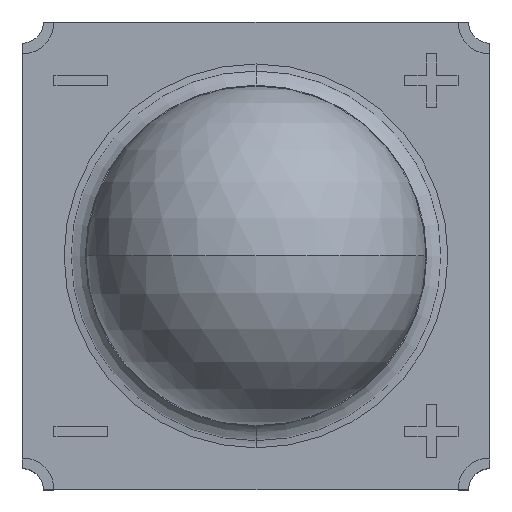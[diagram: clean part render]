
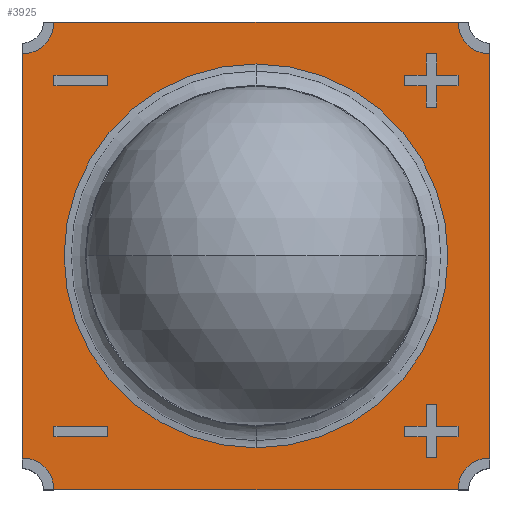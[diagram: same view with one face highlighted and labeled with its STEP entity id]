
A CAD part, top view. The second image highlights one B-rep face of the part: STEP entity #3925.
In plain terms, the highlighted planar face has unit normal (0, 0, 1).
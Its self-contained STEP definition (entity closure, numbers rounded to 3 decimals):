
#3 = EDGE_CURVE ( 'NONE', #1645, #1647, #4971, .T. ) ;
#4 = AXIS2_PLACEMENT_3D ( 'NONE', #1160, #1161, #1162 ) ;
#6 = AXIS2_PLACEMENT_3D ( 'NONE', #4683, #4684, #4685 ) ;
#39 = EDGE_CURVE ( 'NONE', #1631, #1646, #5032, .T. ) ;
#45 = AXIS2_PLACEMENT_3D ( 'NONE', #4656, #4657, #4658 ) ;
#50 = EDGE_CURVE ( 'NONE', #1647, #4988, #5043, .T. ) ;
#66 = AXIS2_PLACEMENT_3D ( 'NONE', #2377, #2378, #2379 ) ;
#92 = EDGE_CURVE ( 'NONE', #5655, #5714, #5069, .T. ) ;
#102 = EDGE_CURVE ( 'NONE', #5714, #5655, #5074, .T. ) ;
#103 = EDGE_CURVE ( 'NONE', #1636, #1638, #5078, .T. ) ;
#118 = EDGE_CURVE ( 'NONE', #1638, #1645, #5089, .T. ) ;
#123 = EDGE_CURVE ( 'NONE', #1646, #1642, #5092, .T. ) ;
#151 = AXIS2_PLACEMENT_3D ( 'NONE', #4664, #4665, #4666 ) ;
#153 = EDGE_CURVE ( 'NONE', #4988, #1631, #5137, .T. ) ;
#167 = EDGE_CURVE ( 'NONE', #1642, #1636, #1798, .T. ) ;
#212 = AXIS2_PLACEMENT_3D ( 'NONE', #1173, #1174, #1175 ) ;
#991 = AXIS2_PLACEMENT_3D ( 'NONE', #3197, #3198, #3199 ) ;
#1160 = CARTESIAN_POINT ( 'NONE',  ( -2.2, 2.2, 1.05 ) ) ;
#1161 = DIRECTION ( 'NONE',  ( 0., 0., -1. ) ) ;
#1162 = DIRECTION ( 'NONE',  ( -1., 0., 0. ) ) ;
#1173 = CARTESIAN_POINT ( 'NONE',  ( 2.2, 2.2, 1.05 ) ) ;
#1174 = DIRECTION ( 'NONE',  ( 0., 0., -1. ) ) ;
#1175 = DIRECTION ( 'NONE',  ( -1., 0., 0. ) ) ;
#1631 = VERTEX_POINT ( 'NONE', #4504 ) ;
#1636 = VERTEX_POINT ( 'NONE', #4506 ) ;
#1638 = VERTEX_POINT ( 'NONE', #4507 ) ;
#1642 = VERTEX_POINT ( 'NONE', #4509 ) ;
#1645 = VERTEX_POINT ( 'NONE', #4512 ) ;
#1646 = VERTEX_POINT ( 'NONE', #4513 ) ;
#1647 = VERTEX_POINT ( 'NONE', #4514 ) ;
#1798 = CIRCLE ( 'NONE', #66, 0.3 ) ;
#2353 = CARTESIAN_POINT ( 'NONE',  ( -2.2, 2.2, 1.05 ) ) ;
#2361 = DIRECTION ( 'NONE',  ( -1., 0., 0. ) ) ;
#2377 = CARTESIAN_POINT ( 'NONE',  ( -2.2, -2.2, 1.05 ) ) ;
#2378 = DIRECTION ( 'NONE',  ( 0., 0., -1. ) ) ;
#2379 = DIRECTION ( 'NONE',  ( -1., 0., 0. ) ) ;
#3190 = PLANE ( 'NONE',  #991 ) ;
#3197 = CARTESIAN_POINT ( 'NONE',  ( -2.2, -2.2, 1.05 ) ) ;
#3198 = DIRECTION ( 'NONE',  ( 0., 0., 1. ) ) ;
#3199 = DIRECTION ( 'NONE',  ( 1., 0., 0. ) ) ;
#3325 = CARTESIAN_POINT ( 'NONE',  ( 1.9, 2.2, 1.05 ) ) ;
#3394 = CARTESIAN_POINT ( 'NONE',  ( -1.738, 0., 1.05 ) ) ;
#3453 = CARTESIAN_POINT ( 'NONE',  ( 1.738, 0., 1.05 ) ) ;
#3491 = FACE_BOUND ( 'NONE', #4111, .T. ) ;
#3495 = FACE_OUTER_BOUND ( 'NONE', #4123, .T. ) ;
#3925 = ADVANCED_FACE ( 'NONE', ( #3491, #3495 ), #3190, .T. ) ;
#3936 = CARTESIAN_POINT ( 'NONE',  ( 2.2, 2.2, 1.05 ) ) ;
#3937 = DIRECTION ( 'NONE',  ( 0., 1., 0. ) ) ;
#4111 = EDGE_LOOP ( 'NONE', ( #4854, #4855 ) ) ;
#4123 = EDGE_LOOP ( 'NONE', ( #4856, #4857, #4858, #4859, #4860, #4861, #4862, #4863 ) ) ;
#4504 = CARTESIAN_POINT ( 'NONE',  ( -1.9, 2.2, 1.05 ) ) ;
#4506 = CARTESIAN_POINT ( 'NONE',  ( -1.9, -2.2, 1.05 ) ) ;
#4507 = CARTESIAN_POINT ( 'NONE',  ( 1.9, -2.2, 1.05 ) ) ;
#4509 = CARTESIAN_POINT ( 'NONE',  ( -2.2, -1.9, 1.05 ) ) ;
#4512 = CARTESIAN_POINT ( 'NONE',  ( 2.2, -1.9, 1.05 ) ) ;
#4513 = CARTESIAN_POINT ( 'NONE',  ( -2.2, 1.9, 1.05 ) ) ;
#4514 = CARTESIAN_POINT ( 'NONE',  ( 2.2, 1.9, 1.05 ) ) ;
#4656 = CARTESIAN_POINT ( 'NONE',  ( 0., 0., 1.05 ) ) ;
#4657 = DIRECTION ( 'NONE',  ( 0., 0., -1. ) ) ;
#4658 = DIRECTION ( 'NONE',  ( -1., 0., 0. ) ) ;
#4659 = DIRECTION ( 'NONE',  ( 1., 0., 0. ) ) ;
#4661 = CARTESIAN_POINT ( 'NONE',  ( -2.2, -2.2, 1.05 ) ) ;
#4664 = CARTESIAN_POINT ( 'NONE',  ( 0., 0., 1.05 ) ) ;
#4665 = DIRECTION ( 'NONE',  ( 0., 0., -1. ) ) ;
#4666 = DIRECTION ( 'NONE',  ( -1., 0., 0. ) ) ;
#4681 = CARTESIAN_POINT ( 'NONE',  ( -2.2, 2.2, 1.05 ) ) ;
#4683 = CARTESIAN_POINT ( 'NONE',  ( 2.2, -2.2, 1.05 ) ) ;
#4684 = DIRECTION ( 'NONE',  ( 0., 0., -1. ) ) ;
#4685 = DIRECTION ( 'NONE',  ( -1., 0., 0. ) ) ;
#4690 = DIRECTION ( 'NONE',  ( 0., -1., 0. ) ) ;
#4854 = ORIENTED_EDGE ( 'NONE', *, *, #92, .T. ) ;
#4855 = ORIENTED_EDGE ( 'NONE', *, *, #102, .T. ) ;
#4856 = ORIENTED_EDGE ( 'NONE', *, *, #153, .T. ) ;
#4857 = ORIENTED_EDGE ( 'NONE', *, *, #39, .T. ) ;
#4858 = ORIENTED_EDGE ( 'NONE', *, *, #123, .T. ) ;
#4859 = ORIENTED_EDGE ( 'NONE', *, *, #167, .T. ) ;
#4860 = ORIENTED_EDGE ( 'NONE', *, *, #103, .T. ) ;
#4861 = ORIENTED_EDGE ( 'NONE', *, *, #118, .T. ) ;
#4862 = ORIENTED_EDGE ( 'NONE', *, *, #3, .T. ) ;
#4863 = ORIENTED_EDGE ( 'NONE', *, *, #50, .T. ) ;
#4971 = LINE ( 'NONE', #3936, #4973 ) ;
#4973 = VECTOR ( 'NONE', #3937, 1000. ) ;
#4988 = VERTEX_POINT ( 'NONE', #3325 ) ;
#5032 = CIRCLE ( 'NONE', #4, 0.3 ) ;
#5043 = CIRCLE ( 'NONE', #212, 0.3 ) ;
#5069 = CIRCLE ( 'NONE', #45, 1.738 ) ;
#5074 = CIRCLE ( 'NONE', #151, 1.738 ) ;
#5078 = LINE ( 'NONE', #4661, #5080 ) ;
#5080 = VECTOR ( 'NONE', #4659, 1000. ) ;
#5089 = CIRCLE ( 'NONE', #6, 0.3 ) ;
#5092 = LINE ( 'NONE', #4681, #5099 ) ;
#5099 = VECTOR ( 'NONE', #4690, 1000. ) ;
#5137 = LINE ( 'NONE', #2353, #5142 ) ;
#5142 = VECTOR ( 'NONE', #2361, 1000. ) ;
#5655 = VERTEX_POINT ( 'NONE', #3394 ) ;
#5714 = VERTEX_POINT ( 'NONE', #3453 ) ;
